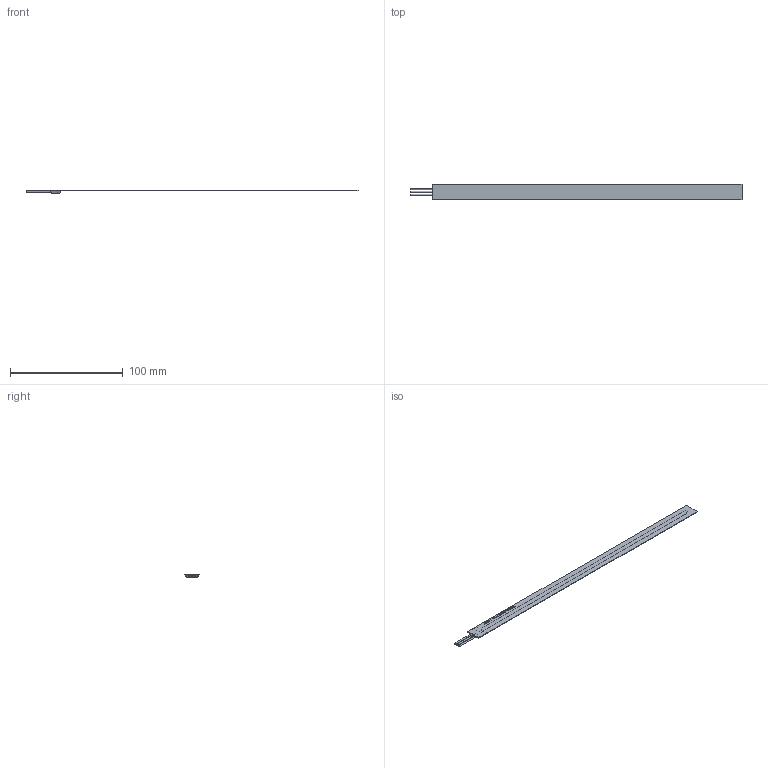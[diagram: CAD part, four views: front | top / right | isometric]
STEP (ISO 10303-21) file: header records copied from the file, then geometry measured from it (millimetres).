
FILE_DESCRIPTION(/* description */ ('UFPMA250A472XWB'),/* implementation_level */ '2;1');
FILE_NAME(/* name */ 'UFPMA250A472XWB',/* time_stamp */ '2017-12-07T12:04:40+01:00',/* author */ ('VISHAY'),/* organization */ ('VISHAY'),/* preprocessor_version */ 'ST-DEVELOPER v16.7',/* originating_system */ 'DEX',/* authorisation */ $);
FILE_SCHEMA (('AUTOMOTIVE_DESIGN {1 0 10303 214 3 1 1}'));
Length unit declared in the file: millimetre
Products named in the file (4): UFPMAxxxA472XWB; UFPMA250_Body; Wires; Potting
Assembly tree (3 placements, depth 2):
  UFPMAxxxA472XWB
    UFPMA250_Body
    Wires
    Potting
Bounding box: 295 x 13.5 x 3.03 mm (x, y, z)
Volume: 1980.9 mm3; surface area: 8333.7 mm2
Topology: 5 solids, 5 shells, 246 faces, 606 edges, 404 vertices
Faces by surface type: plane 195, bspline 44, cylinder 7
Full cylindrical faces by diameter (mm): 0.8 x3, 1.2 x3
Entity records: 9038 total; most frequent: CARTESIAN_POINT 3394, ORIENTED_EDGE 1196, DIRECTION 940, EDGE_CURVE 598, LINE 500, VECTOR 500, VERTEX_POINT 404, EDGE_LOOP 288
